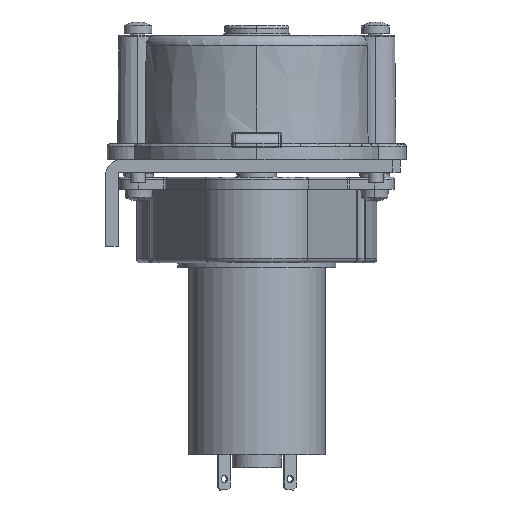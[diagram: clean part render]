
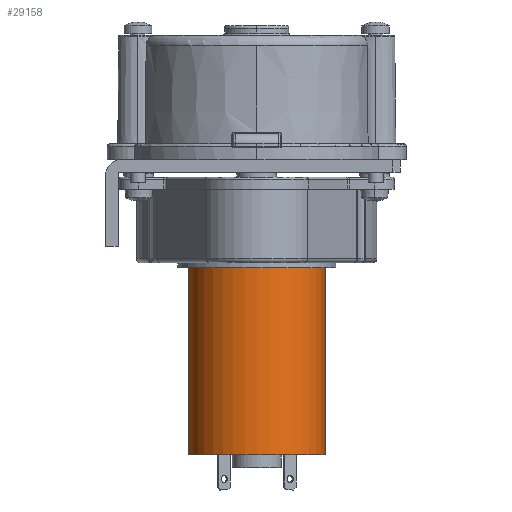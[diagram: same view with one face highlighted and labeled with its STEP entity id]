
A CAD part, front view. The second image highlights one B-rep face of the part: STEP entity #29158.
In plain terms, the highlighted cylindrical face has radius 13.8 mm (diameter 27.6 mm), a partial arc.
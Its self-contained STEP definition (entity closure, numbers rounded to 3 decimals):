
#24 = FACE_OUTER_BOUND ( 'NONE', #15306, .T. ) ;
#1025 = CARTESIAN_POINT ( 'NONE',  ( 75.269, 72.855, -1.95 ) ) ;
#1683 = DIRECTION ( 'NONE',  ( 0., 0., 1. ) ) ;
#1907 = DIRECTION ( 'NONE',  ( 0., 0., 1. ) ) ;
#2292 = VECTOR ( 'NONE', #8922, 1000. ) ;
#2304 = VERTEX_POINT ( 'NONE', #17822 ) ;
#2555 = DIRECTION ( 'NONE',  ( 0., 0., 1. ) ) ;
#3423 = VERTEX_POINT ( 'NONE', #14726 ) ;
#4127 = LINE ( 'NONE', #22896, #7162 ) ;
#4183 = CIRCLE ( 'NONE', #13812, 13.8 ) ;
#4317 = CARTESIAN_POINT ( 'NONE',  ( 75.269, 72.855, -39.75 ) ) ;
#5005 = VERTEX_POINT ( 'NONE', #19445 ) ;
#5136 = EDGE_CURVE ( 'NONE', #3423, #16747, #8701, .T. ) ;
#5604 = ORIENTED_EDGE ( 'NONE', *, *, #23506, .F. ) ;
#5872 = DIRECTION ( 'NONE',  ( 1., 0., 0. ) ) ;
#7162 = VECTOR ( 'NONE', #2555, 1000. ) ;
#7280 = AXIS2_PLACEMENT_3D ( 'NONE', #21936, #1683, #5872 ) ;
#7526 = CIRCLE ( 'NONE', #27082, 13.8 ) ;
#8701 = LINE ( 'NONE', #17857, #2292 ) ;
#8717 = ORIENTED_EDGE ( 'NONE', *, *, #5136, .T. ) ;
#8922 = DIRECTION ( 'NONE',  ( 0., 0., 1. ) ) ;
#13536 = CYLINDRICAL_SURFACE ( 'NONE', #7280, 13.8 ) ;
#13812 = AXIS2_PLACEMENT_3D ( 'NONE', #1025, #21254, #27938 ) ;
#14726 = CARTESIAN_POINT ( 'NONE',  ( 61.469, 72.855, -39.75 ) ) ;
#15306 = EDGE_LOOP ( 'NONE', ( #26618, #8717, #25396, #5604 ) ) ;
#16747 = VERTEX_POINT ( 'NONE', #19566 ) ;
#17822 = CARTESIAN_POINT ( 'NONE',  ( 89.069, 72.855, -1.95 ) ) ;
#17857 = CARTESIAN_POINT ( 'NONE',  ( 61.469, 72.855, -1.95 ) ) ;
#19445 = CARTESIAN_POINT ( 'NONE',  ( 89.069, 72.855, -39.75 ) ) ;
#19566 = CARTESIAN_POINT ( 'NONE',  ( 61.469, 72.855, -1.95 ) ) ;
#20167 = DIRECTION ( 'NONE',  ( 1., 0., 0. ) ) ;
#21187 = EDGE_CURVE ( 'NONE', #16747, #2304, #4183, .T. ) ;
#21254 = DIRECTION ( 'NONE',  ( 0., 0., -1. ) ) ;
#21936 = CARTESIAN_POINT ( 'NONE',  ( 75.269, 72.855, -1.95 ) ) ;
#22896 = CARTESIAN_POINT ( 'NONE',  ( 89.069, 72.855, -1.95 ) ) ;
#23506 = EDGE_CURVE ( 'NONE', #5005, #2304, #4127, .T. ) ;
#25396 = ORIENTED_EDGE ( 'NONE', *, *, #21187, .T. ) ;
#26618 = ORIENTED_EDGE ( 'NONE', *, *, #28687, .T. ) ;
#27082 = AXIS2_PLACEMENT_3D ( 'NONE', #4317, #1907, #20167 ) ;
#27938 = DIRECTION ( 'NONE',  ( 1., 0., 0. ) ) ;
#28687 = EDGE_CURVE ( 'NONE', #5005, #3423, #7526, .T. ) ;
#29158 = ADVANCED_FACE ( 'NONE', ( #24 ), #13536, .T. ) ;
